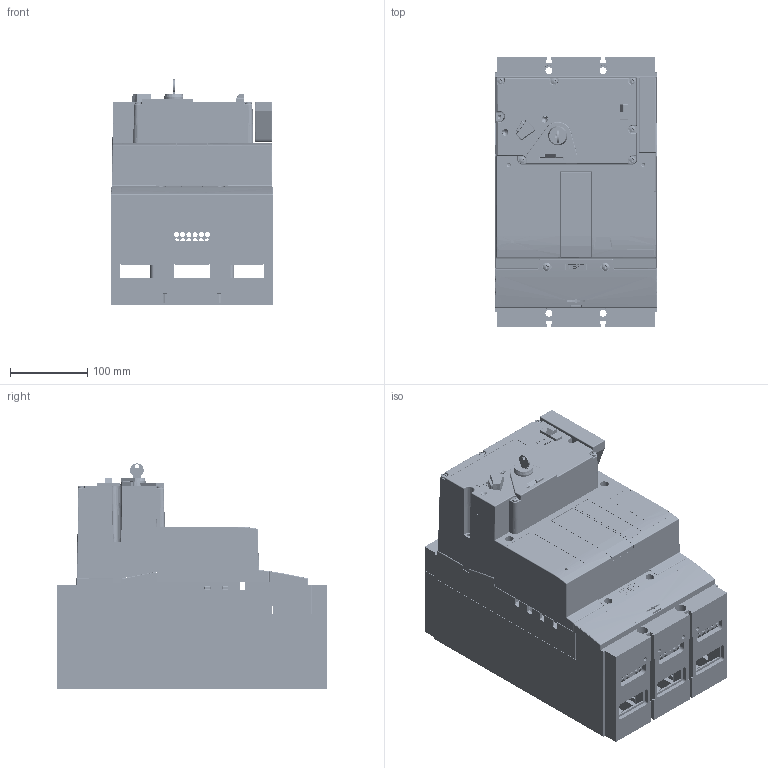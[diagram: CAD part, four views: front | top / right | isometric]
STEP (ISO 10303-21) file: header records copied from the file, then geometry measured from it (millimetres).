
FILE_DESCRIPTION (( 'STEP AP214' ), '1' );
FILE_NAME ('BL____305__SE-BL__MP-BL.step', '2011-08-01T08:25:05', ( 'Radek Veselý' ), ( 'Siemens and Partners' ), 'SwSTEP 2.0', 'SolidWorks 2006303', '' );
FILE_SCHEMA (( 'AUTOMOTIVE_DESIGN' ));
Length unit declared in the file: millimetre
Products named in the file (1): BL____305__SE-BL__MP-BL
Bounding box: 210 x 350 x 291.35 mm (x, y, z)
Volume: 4260317.2 mm3; surface area: 1607060.8 mm2
Topology: 47 solids, 47 shells, 6983 faces, 18997 edges, 12179 vertices
Faces by surface type: plane 3940, cylinder 2311, cone 329, torus 166, sphere 138, bspline 99
Entity records: 304115 total; most frequent: CARTESIAN_POINT 48413, ORIENTED_EDGE 37664, DIRECTION 36915, EDGE_CURVE 18832, VECTOR 12563, LINE 12563, AXIS2_PLACEMENT_3D 12176, VERTEX_POINT 12157
